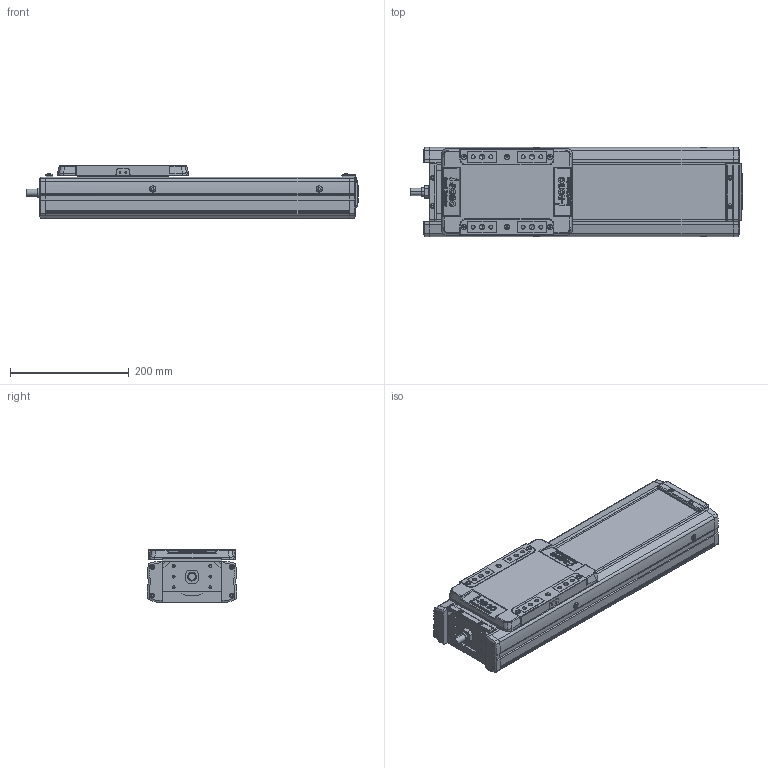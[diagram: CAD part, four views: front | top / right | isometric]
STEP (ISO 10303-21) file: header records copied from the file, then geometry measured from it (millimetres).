
FILE_DESCRIPTION(('STEP AP214'),'1');
FILE_NAME('Z:/Web/3D/SAN150/2013.04 (STP.)/SAN150ㅁㅁ-250.stp','2013-05-08T02:20:04',(' '),(' '),'Spatial InterOp 3D',' ',' ');
FILE_SCHEMA(('automotive_design'));
Length unit declared in the file: millimetre
Products named in the file (35): SLBL-SAN150; SLCV-SAN150; FHCS M4.0 x 8.0; BHCS M4.0 x 10.0; SFX-SAN150; RRCV-SAN150; FRBL-SAN150; Spacer; RN15; FRCV-SAN150; Screw 20; BASE-SAN150-000L ; SUS COVER; 스크루 : Round - M5.0 x 6.0
Bounding box: 558 x 150 x 90 mm (x, y, z)
Volume: 3447769.9 mm3; surface area: 647993.2 mm2
Topology: 35 solids, 35 shells, 1945 faces, 5009 edges, 3202 vertices
Faces by surface type: plane 975, cylinder 679, cone 210, sphere 48, bspline 21, torus 12
Entity records: 77017 total; most frequent: CARTESIAN_POINT 12437, DIRECTION 10566, ORIENTED_EDGE 9834, EDGE_CURVE 4917, AXIS2_PLACEMENT_3D 3762, VERTEX_POINT 3202, LINE 3042, VECTOR 3042
